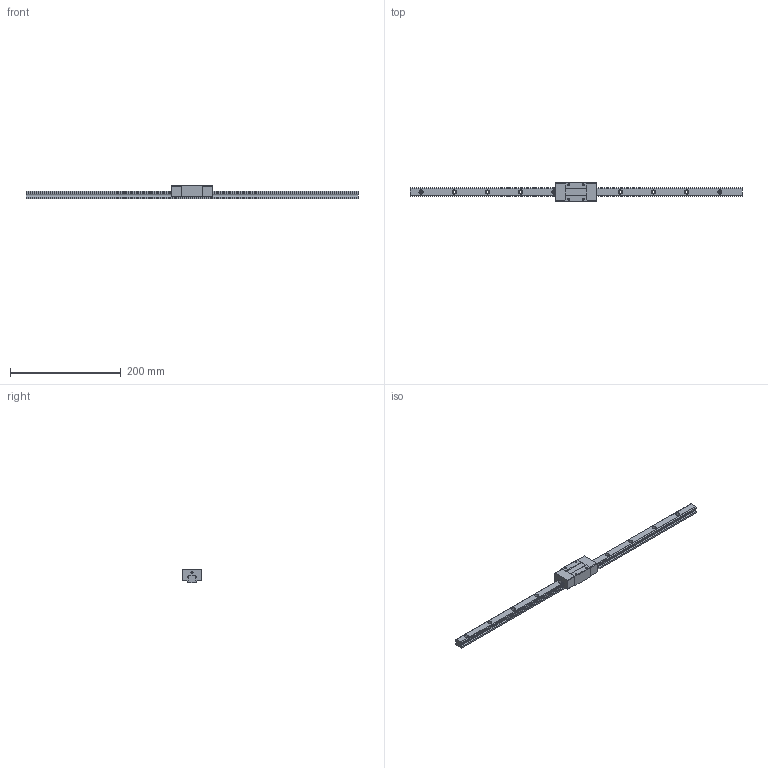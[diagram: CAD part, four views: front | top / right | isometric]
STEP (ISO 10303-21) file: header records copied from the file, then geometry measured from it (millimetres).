
FILE_DESCRIPTION (( 'STEP AP203' ), '1' );
FILE_NAME ('TRS15VN-WZ.STEP', '2023-02-08T02:24:07', ( '' ), ( '' ), 'SwSTEP 2.0', 'SolidWorks 2019', '' );
FILE_SCHEMA (( 'CONFIG_CONTROL_DESIGN' ));
Length unit declared in the file: millimetre
Products named in the file (1): TRS15VN-WZ
Bounding box: 600 x 34 x 24 mm (x, y, z)
Volume: 142642.2 mm3; surface area: 48373.5 mm2
Topology: 2 solids, 2 shells, 156 faces, 388 edges, 252 vertices
Faces by surface type: plane 84, cylinder 72
Entity records: 4771 total; most frequent: DIRECTION 846, CARTESIAN_POINT 797, ORIENTED_EDGE 776, EDGE_CURVE 388, AXIS2_PLACEMENT_3D 301, VERTEX_POINT 252, LINE 244, VECTOR 244
